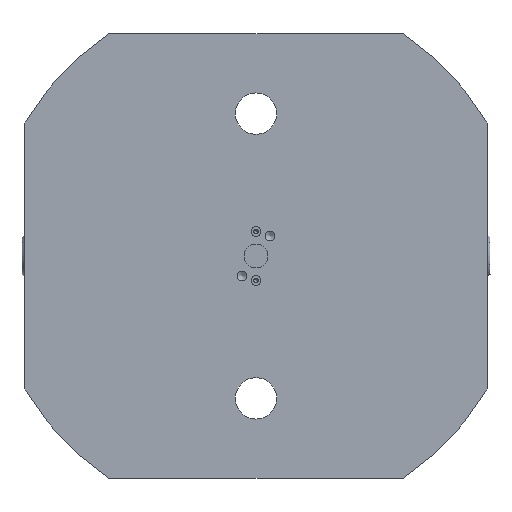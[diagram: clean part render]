
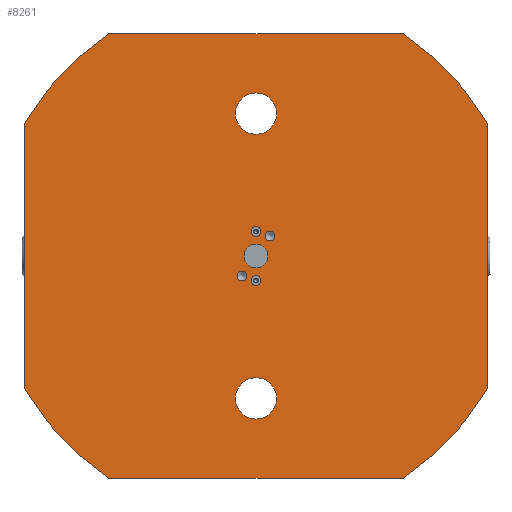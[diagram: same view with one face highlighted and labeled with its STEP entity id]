
A CAD part, front view. The second image highlights one B-rep face of the part: STEP entity #8261.
In plain terms, the highlighted planar face has unit normal (0, -1, 0).
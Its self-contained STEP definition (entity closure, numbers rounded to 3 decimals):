
#58 = ORIENTED_EDGE ( 'NONE', *, *, #8569, .T. ) ;
#68 = ORIENTED_EDGE ( 'NONE', *, *, #1206, .F. ) ;
#73 = AXIS2_PLACEMENT_3D ( 'NONE', #8933, #7452, #9290 ) ;
#86 = DIRECTION ( 'NONE',  ( 0., 1., 0. ) ) ;
#94 = LINE ( 'NONE', #147, #4293 ) ;
#134 = CARTESIAN_POINT ( 'NONE',  ( -78., 0., 75. ) ) ;
#147 = CARTESIAN_POINT ( 'NONE',  ( -78., 0., -75. ) ) ;
#173 = VERTEX_POINT ( 'NONE', #6964 ) ;
#186 = CARTESIAN_POINT ( 'NONE',  ( 0., 0., 0. ) ) ;
#336 = CARTESIAN_POINT ( 'NONE',  ( 0., 0., -41.085 ) ) ;
#385 = VERTEX_POINT ( 'NONE', #336 ) ;
#631 = EDGE_CURVE ( 'NONE', #8128, #8128, #5382, .T. ) ;
#646 = CARTESIAN_POINT ( 'NONE',  ( 0., 0., 0. ) ) ;
#695 = DIRECTION ( 'NONE',  ( 0., 1., 0. ) ) ;
#723 = VERTEX_POINT ( 'NONE', #5027 ) ;
#927 = EDGE_CURVE ( 'NONE', #173, #2972, #3220, .T. ) ;
#1031 = AXIS2_PLACEMENT_3D ( 'NONE', #5774, #1186, #8976 ) ;
#1048 = CARTESIAN_POINT ( 'NONE',  ( 0., 0., -6.605 ) ) ;
#1186 = DIRECTION ( 'NONE',  ( 0., -1., 0. ) ) ;
#1193 = CARTESIAN_POINT ( 'NONE',  ( -78., 0., -75. ) ) ;
#1204 = CARTESIAN_POINT ( 'NONE',  ( -4.735, 0., -8.412 ) ) ;
#1206 = EDGE_CURVE ( 'NONE', #5295, #5295, #9525, .T. ) ;
#1230 = EDGE_LOOP ( 'NONE', ( #6774 ) ) ;
#1407 = CARTESIAN_POINT ( 'NONE',  ( 0., 0., -4.013 ) ) ;
#1513 = EDGE_LOOP ( 'NONE', ( #3413, #4132, #5256, #5963, #9017, #3729, #4354, #6358 ) ) ;
#1517 = CIRCLE ( 'NONE', #73, 6.985 ) ;
#1536 = DIRECTION ( 'NONE',  ( 0., 1., 0. ) ) ;
#1538 = EDGE_LOOP ( 'NONE', ( #58 ) ) ;
#1542 = CARTESIAN_POINT ( 'NONE',  ( 4.735, 0., 6.762 ) ) ;
#1928 = ORIENTED_EDGE ( 'NONE', *, *, #7052, .T. ) ;
#1959 = VERTEX_POINT ( 'NONE', #2316 ) ;
#2257 = DIRECTION ( 'NONE',  ( 0., 1., 0. ) ) ;
#2282 = EDGE_CURVE ( 'NONE', #3734, #3734, #9370, .T. ) ;
#2314 = DIRECTION ( 'NONE',  ( 0., 0., 1. ) ) ;
#2316 = CARTESIAN_POINT ( 'NONE',  ( 49.749, 0., -75. ) ) ;
#2521 = ORIENTED_EDGE ( 'NONE', *, *, #6322, .T. ) ;
#2528 = CIRCLE ( 'NONE', #3334, 90. ) ;
#2571 = DIRECTION ( 'NONE',  ( -1., 0., 0. ) ) ;
#2614 = LINE ( 'NONE', #1193, #4115 ) ;
#2818 = CARTESIAN_POINT ( 'NONE',  ( 78., 0., -75. ) ) ;
#2882 = EDGE_CURVE ( 'NONE', #7538, #173, #8830, .T. ) ;
#2972 = VERTEX_POINT ( 'NONE', #5428 ) ;
#3081 = DIRECTION ( 'NONE',  ( 0., 1., 0. ) ) ;
#3113 = PLANE ( 'NONE',  #3126 ) ;
#3126 = AXIS2_PLACEMENT_3D ( 'NONE', #7795, #1536, #9278 ) ;
#3181 = DIRECTION ( 'NONE',  ( 0., 0., 1. ) ) ;
#3220 = LINE ( 'NONE', #134, #6223 ) ;
#3230 = DIRECTION ( 'NONE',  ( 0., 0., 1. ) ) ;
#3334 = AXIS2_PLACEMENT_3D ( 'NONE', #186, #5629, #3181 ) ;
#3348 = EDGE_LOOP ( 'NONE', ( #68 ) ) ;
#3413 = ORIENTED_EDGE ( 'NONE', *, *, #4693, .F. ) ;
#3588 = CARTESIAN_POINT ( 'NONE',  ( 78., 0., -44.9 ) ) ;
#3642 = EDGE_CURVE ( 'NONE', #8633, #8633, #4013, .T. ) ;
#3721 = DIRECTION ( 'NONE',  ( 0., 0., 1. ) ) ;
#3729 = ORIENTED_EDGE ( 'NONE', *, *, #8009, .F. ) ;
#3734 = VERTEX_POINT ( 'NONE', #6702 ) ;
#3765 = AXIS2_PLACEMENT_3D ( 'NONE', #6780, #9970, #5168 ) ;
#3855 = AXIS2_PLACEMENT_3D ( 'NONE', #5812, #9957, #8401 ) ;
#3884 = CARTESIAN_POINT ( 'NONE',  ( 0., 0., 9.905 ) ) ;
#3923 = DIRECTION ( 'NONE',  ( 0., 0., 1. ) ) ;
#4013 = CIRCLE ( 'NONE', #9655, 1.65 ) ;
#4016 = DIRECTION ( 'NONE',  ( 0., -1., 0. ) ) ;
#4115 = VECTOR ( 'NONE', #2571, 1000. ) ;
#4132 = ORIENTED_EDGE ( 'NONE', *, *, #927, .F. ) ;
#4293 = VECTOR ( 'NONE', #5632, 1000. ) ;
#4354 = ORIENTED_EDGE ( 'NONE', *, *, #9342, .F. ) ;
#4402 = VECTOR ( 'NONE', #5884, 1000. ) ;
#4484 = ORIENTED_EDGE ( 'NONE', *, *, #3642, .T. ) ;
#4569 = DIRECTION ( 'NONE',  ( 0., 0., -1. ) ) ;
#4651 = AXIS2_PLACEMENT_3D ( 'NONE', #4771, #86, #3230 ) ;
#4663 = LINE ( 'NONE', #2818, #4402 ) ;
#4693 = EDGE_CURVE ( 'NONE', #2972, #6799, #2528, .T. ) ;
#4771 = CARTESIAN_POINT ( 'NONE',  ( 0., 0., 48.069 ) ) ;
#4872 = EDGE_LOOP ( 'NONE', ( #8117 ) ) ;
#4914 = DIRECTION ( 'NONE',  ( 0., 1., 0. ) ) ;
#4932 = VERTEX_POINT ( 'NONE', #5825 ) ;
#5004 = AXIS2_PLACEMENT_3D ( 'NONE', #1542, #4016, #4569 ) ;
#5027 = CARTESIAN_POINT ( 'NONE',  ( -49.749, 0., -75. ) ) ;
#5029 = VERTEX_POINT ( 'NONE', #1048 ) ;
#5042 = CARTESIAN_POINT ( 'NONE',  ( 78., 0., 44.9 ) ) ;
#5168 = DIRECTION ( 'NONE',  ( 0., 0., 1. ) ) ;
#5247 = EDGE_LOOP ( 'NONE', ( #4484 ) ) ;
#5256 = ORIENTED_EDGE ( 'NONE', *, *, #2882, .F. ) ;
#5281 = AXIS2_PLACEMENT_3D ( 'NONE', #6023, #695, #6741 ) ;
#5295 = VERTEX_POINT ( 'NONE', #1407 ) ;
#5369 = FACE_BOUND ( 'NONE', #1538, .T. ) ;
#5382 = CIRCLE ( 'NONE', #1031, 1.65 ) ;
#5428 = CARTESIAN_POINT ( 'NONE',  ( 49.749, 0., 75. ) ) ;
#5466 = FACE_BOUND ( 'NONE', #5854, .T. ) ;
#5629 = DIRECTION ( 'NONE',  ( 0., 1., 0. ) ) ;
#5632 = DIRECTION ( 'NONE',  ( 0., 0., 1. ) ) ;
#5659 = CARTESIAN_POINT ( 'NONE',  ( 0., 0., 0. ) ) ;
#5774 = CARTESIAN_POINT ( 'NONE',  ( -4.735, 0., -6.762 ) ) ;
#5812 = CARTESIAN_POINT ( 'NONE',  ( 0., 0., 0. ) ) ;
#5825 = CARTESIAN_POINT ( 'NONE',  ( 0., 0., 55.054 ) ) ;
#5854 = EDGE_LOOP ( 'NONE', ( #2521 ) ) ;
#5884 = DIRECTION ( 'NONE',  ( 0., 0., -1. ) ) ;
#5886 = EDGE_CURVE ( 'NONE', #8986, #7538, #94, .T. ) ;
#5963 = ORIENTED_EDGE ( 'NONE', *, *, #5886, .F. ) ;
#6023 = CARTESIAN_POINT ( 'NONE',  ( 0., 0., 0. ) ) ;
#6100 = EDGE_CURVE ( 'NONE', #723, #8986, #9445, .T. ) ;
#6160 = DIRECTION ( 'NONE',  ( 1., 0., 0. ) ) ;
#6223 = VECTOR ( 'NONE', #6160, 1000. ) ;
#6322 = EDGE_CURVE ( 'NONE', #5029, #5029, #8922, .T. ) ;
#6358 = ORIENTED_EDGE ( 'NONE', *, *, #8276, .F. ) ;
#6702 = CARTESIAN_POINT ( 'NONE',  ( 4.735, 0., 5.112 ) ) ;
#6741 = DIRECTION ( 'NONE',  ( 0., 0., 1. ) ) ;
#6774 = ORIENTED_EDGE ( 'NONE', *, *, #631, .F. ) ;
#6780 = CARTESIAN_POINT ( 'NONE',  ( 0., 0., -8.255 ) ) ;
#6799 = VERTEX_POINT ( 'NONE', #5042 ) ;
#6883 = CARTESIAN_POINT ( 'NONE',  ( -78., 0., -44.9 ) ) ;
#6935 = FACE_BOUND ( 'NONE', #4872, .T. ) ;
#6964 = CARTESIAN_POINT ( 'NONE',  ( -49.749, 0., 75. ) ) ;
#6980 = FACE_OUTER_BOUND ( 'NONE', #1513, .T. ) ;
#7052 = EDGE_CURVE ( 'NONE', #385, #385, #1517, .T. ) ;
#7452 = DIRECTION ( 'NONE',  ( 0., 1., 0. ) ) ;
#7538 = VERTEX_POINT ( 'NONE', #9548 ) ;
#7795 = CARTESIAN_POINT ( 'NONE',  ( 0., 0., 0. ) ) ;
#8009 = EDGE_CURVE ( 'NONE', #1959, #723, #2614, .T. ) ;
#8117 = ORIENTED_EDGE ( 'NONE', *, *, #2282, .F. ) ;
#8119 = EDGE_LOOP ( 'NONE', ( #1928 ) ) ;
#8128 = VERTEX_POINT ( 'NONE', #1204 ) ;
#8261 = ADVANCED_FACE ( 'NONE', ( #9331, #5369, #6935, #8467, #9925, #5466, #8570, #6980 ), #3113, .F. ) ;
#8276 = EDGE_CURVE ( 'NONE', #6799, #9739, #4663, .T. ) ;
#8378 = CIRCLE ( 'NONE', #4651, 6.985 ) ;
#8401 = DIRECTION ( 'NONE',  ( 0., 0., -1. ) ) ;
#8467 = FACE_BOUND ( 'NONE', #1230, .T. ) ;
#8554 = AXIS2_PLACEMENT_3D ( 'NONE', #5659, #4914, #3923 ) ;
#8569 = EDGE_CURVE ( 'NONE', #4932, #4932, #8378, .T. ) ;
#8570 = FACE_BOUND ( 'NONE', #5247, .T. ) ;
#8627 = CARTESIAN_POINT ( 'NONE',  ( 0., 0., 8.255 ) ) ;
#8633 = VERTEX_POINT ( 'NONE', #3884 ) ;
#8703 = CIRCLE ( 'NONE', #8554, 90. ) ;
#8792 = AXIS2_PLACEMENT_3D ( 'NONE', #646, #2257, #3721 ) ;
#8830 = CIRCLE ( 'NONE', #5281, 90. ) ;
#8922 = CIRCLE ( 'NONE', #3765, 1.65 ) ;
#8933 = CARTESIAN_POINT ( 'NONE',  ( 0., 0., -48.069 ) ) ;
#8976 = DIRECTION ( 'NONE',  ( 0., 0., -1. ) ) ;
#8986 = VERTEX_POINT ( 'NONE', #6883 ) ;
#9017 = ORIENTED_EDGE ( 'NONE', *, *, #6100, .F. ) ;
#9278 = DIRECTION ( 'NONE',  ( 0., 0., 1. ) ) ;
#9290 = DIRECTION ( 'NONE',  ( 0., 0., 1. ) ) ;
#9331 = FACE_BOUND ( 'NONE', #8119, .T. ) ;
#9342 = EDGE_CURVE ( 'NONE', #9739, #1959, #8703, .T. ) ;
#9370 = CIRCLE ( 'NONE', #5004, 1.65 ) ;
#9445 = CIRCLE ( 'NONE', #8792, 90. ) ;
#9525 = CIRCLE ( 'NONE', #3855, 4.013 ) ;
#9548 = CARTESIAN_POINT ( 'NONE',  ( -78., 0., 44.9 ) ) ;
#9655 = AXIS2_PLACEMENT_3D ( 'NONE', #8627, #3081, #2314 ) ;
#9739 = VERTEX_POINT ( 'NONE', #3588 ) ;
#9925 = FACE_BOUND ( 'NONE', #3348, .T. ) ;
#9957 = DIRECTION ( 'NONE',  ( 0., -1., 0. ) ) ;
#9970 = DIRECTION ( 'NONE',  ( 0., 1., 0. ) ) ;
